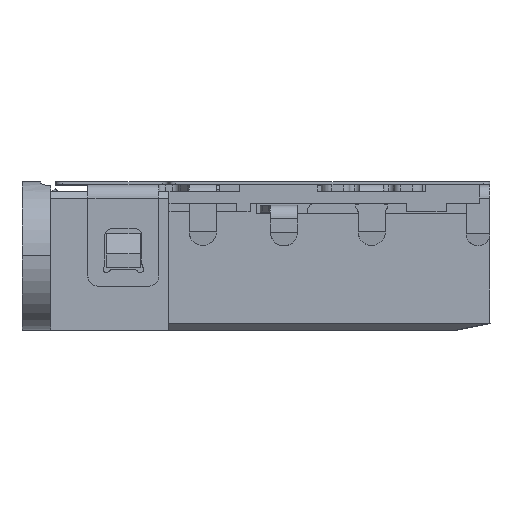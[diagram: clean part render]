
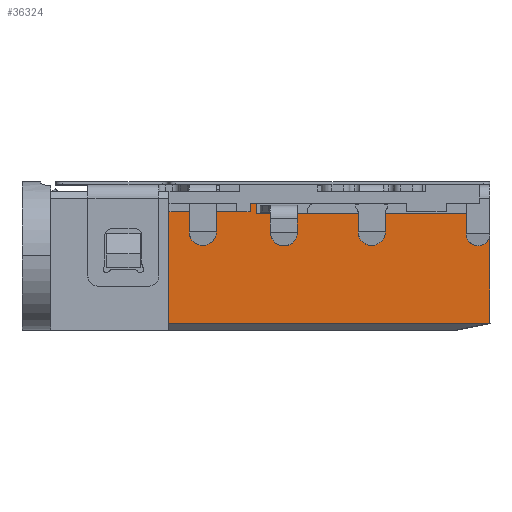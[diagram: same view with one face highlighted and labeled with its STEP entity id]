
A CAD part, top view. The second image highlights one B-rep face of the part: STEP entity #36324.
In plain terms, the highlighted planar face has unit normal (0, 0, 1).
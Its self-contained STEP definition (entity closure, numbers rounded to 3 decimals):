
#752 = CARTESIAN_POINT ( 'NONE',  ( -3., 27.275, 0. ) ) ;
#1111 = VECTOR ( 'NONE', #13504, 1000. ) ;
#1524 = EDGE_CURVE ( 'NONE', #11186, #4271, #4259, .T. ) ;
#2436 = ORIENTED_EDGE ( 'NONE', *, *, #14149, .T. ) ;
#4259 = LINE ( 'NONE', #24133, #34025 ) ;
#4271 = VERTEX_POINT ( 'NONE', #13662 ) ;
#4680 = DIRECTION ( 'NONE',  ( -1., 0., 0. ) ) ;
#5839 = ORIENTED_EDGE ( 'NONE', *, *, #35892, .T. ) ;
#6104 = EDGE_CURVE ( 'NONE', #12164, #7446, #10154, .T. ) ;
#6621 = EDGE_CURVE ( 'NONE', #33954, #23447, #30399, .T. ) ;
#7446 = VERTEX_POINT ( 'NONE', #26409 ) ;
#7666 = ORIENTED_EDGE ( 'NONE', *, *, #28164, .T. ) ;
#7824 = CARTESIAN_POINT ( 'NONE',  ( -0.6, 28.925, 0. ) ) ;
#8275 = DIRECTION ( 'NONE',  ( -1., 0., 0. ) ) ;
#8513 = CARTESIAN_POINT ( 'NONE',  ( -3., 25.5, 0. ) ) ;
#8928 = LINE ( 'NONE', #7824, #16148 ) ;
#9947 = CARTESIAN_POINT ( 'NONE',  ( -0.6, 28.8, 0. ) ) ;
#10154 = LINE ( 'NONE', #16236, #1111 ) ;
#11186 = VERTEX_POINT ( 'NONE', #9947 ) ;
#11953 = LINE ( 'NONE', #32471, #29007 ) ;
#12164 = VERTEX_POINT ( 'NONE', #30164 ) ;
#13026 = CARTESIAN_POINT ( 'NONE',  ( -0.4, 29.05, 0. ) ) ;
#13346 = LINE ( 'NONE', #752, #16460 ) ;
#13504 = DIRECTION ( 'NONE',  ( 0.707, -0.707, 0. ) ) ;
#13662 = CARTESIAN_POINT ( 'NONE',  ( -3., 28.8, 0. ) ) ;
#14149 = EDGE_CURVE ( 'NONE', #31583, #11186, #8928, .T. ) ;
#15473 = PLANE ( 'NONE',  #34666 ) ;
#15502 = ORIENTED_EDGE ( 'NONE', *, *, #29305, .T. ) ;
#15547 = CARTESIAN_POINT ( 'NONE',  ( -0.6, 29.05, 0. ) ) ;
#15603 = CARTESIAN_POINT ( 'NONE',  ( -3.19, 29.121, 0. ) ) ;
#15648 = VECTOR ( 'NONE', #4680, 1000. ) ;
#16148 = VECTOR ( 'NONE', #36155, 1000. ) ;
#16236 = CARTESIAN_POINT ( 'NONE',  ( 6.425, 28.675, 0. ) ) ;
#16460 = VECTOR ( 'NONE', #17918, 1000. ) ;
#17338 = VECTOR ( 'NONE', #8275, 1000. ) ;
#17441 = LINE ( 'NONE', #33543, #15648 ) ;
#17918 = DIRECTION ( 'NONE',  ( 0., -1., 0. ) ) ;
#18483 = DIRECTION ( 'NONE',  ( 0., -1., 0. ) ) ;
#18602 = DIRECTION ( 'NONE',  ( 0., 0., 1. ) ) ;
#18899 = DIRECTION ( 'NONE',  ( 1., 0., 0. ) ) ;
#19077 = VECTOR ( 'NONE', #18899, 1000. ) ;
#19530 = VERTEX_POINT ( 'NONE', #8513 ) ;
#19556 = ORIENTED_EDGE ( 'NONE', *, *, #6104, .F. ) ;
#20446 = ORIENTED_EDGE ( 'NONE', *, *, #1524, .T. ) ;
#21346 = VERTEX_POINT ( 'NONE', #35758 ) ;
#21372 = DIRECTION ( 'NONE',  ( 0., 1., 0. ) ) ;
#22820 = EDGE_CURVE ( 'NONE', #12164, #33954, #17441, .T. ) ;
#23342 = EDGE_CURVE ( 'NONE', #4271, #19530, #13346, .T. ) ;
#23447 = VERTEX_POINT ( 'NONE', #13026 ) ;
#24133 = CARTESIAN_POINT ( 'NONE',  ( 1.75, 28.8, 0. ) ) ;
#24167 = EDGE_LOOP ( 'NONE', ( #34626, #5839, #15502, #19556, #36668, #27554, #7666, #2436, #20446 ) ) ;
#24380 = CARTESIAN_POINT ( 'NONE',  ( -0.4, 27.275, 0. ) ) ;
#26409 = CARTESIAN_POINT ( 'NONE',  ( 6.5, 28.6, 0. ) ) ;
#26753 = LINE ( 'NONE', #30615, #19077 ) ;
#27165 = DIRECTION ( 'NONE',  ( 0., 1., 0. ) ) ;
#27554 = ORIENTED_EDGE ( 'NONE', *, *, #6621, .T. ) ;
#28164 = EDGE_CURVE ( 'NONE', #23447, #31583, #31335, .T. ) ;
#29007 = VECTOR ( 'NONE', #21372, 1000. ) ;
#29305 = EDGE_CURVE ( 'NONE', #21346, #7446, #11953, .T. ) ;
#30164 = CARTESIAN_POINT ( 'NONE',  ( 6.35, 28.75, 0. ) ) ;
#30399 = LINE ( 'NONE', #24380, #34891 ) ;
#30615 = CARTESIAN_POINT ( 'NONE',  ( 1.75, 25.5, 0. ) ) ;
#31335 = LINE ( 'NONE', #33949, #17338 ) ;
#31583 = VERTEX_POINT ( 'NONE', #15547 ) ;
#32471 = CARTESIAN_POINT ( 'NONE',  ( 6.5, 27.55, 0. ) ) ;
#33543 = CARTESIAN_POINT ( 'NONE',  ( 1.75, 28.75, 0. ) ) ;
#33949 = CARTESIAN_POINT ( 'NONE',  ( 2.875, 29.05, 0. ) ) ;
#33954 = VERTEX_POINT ( 'NONE', #35544 ) ;
#34025 = VECTOR ( 'NONE', #35723, 1000. ) ;
#34626 = ORIENTED_EDGE ( 'NONE', *, *, #23342, .T. ) ;
#34666 = AXIS2_PLACEMENT_3D ( 'NONE', #15603, #18602, #18483 ) ;
#34891 = VECTOR ( 'NONE', #27165, 1000. ) ;
#35544 = CARTESIAN_POINT ( 'NONE',  ( -0.4, 28.75, 0. ) ) ;
#35723 = DIRECTION ( 'NONE',  ( -1., 0., 0. ) ) ;
#35726 = FACE_OUTER_BOUND ( 'NONE', #24167, .T. ) ;
#35758 = CARTESIAN_POINT ( 'NONE',  ( 6.5, 25.5, 0. ) ) ;
#35892 = EDGE_CURVE ( 'NONE', #19530, #21346, #26753, .T. ) ;
#36155 = DIRECTION ( 'NONE',  ( 0., -1., 0. ) ) ;
#36324 = ADVANCED_FACE ( 'NONE', ( #35726 ), #15473, .T. ) ;
#36668 = ORIENTED_EDGE ( 'NONE', *, *, #22820, .T. ) ;
